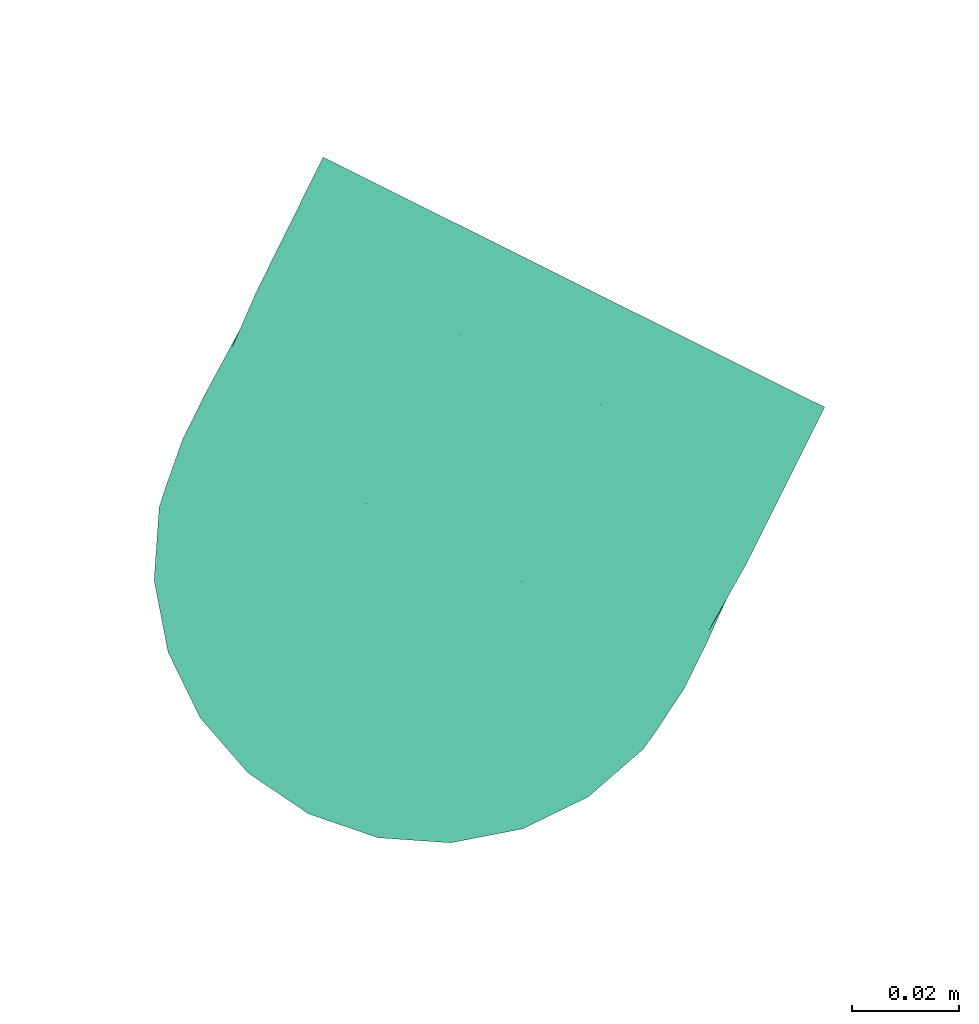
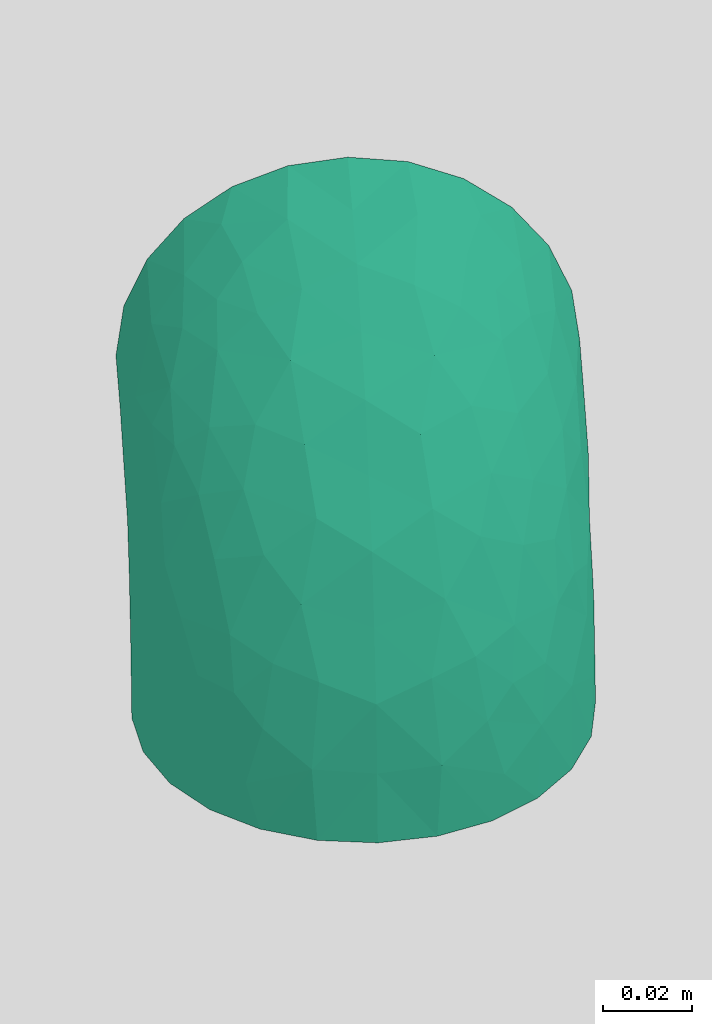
# One storey, part 3 of 4: 1 flow fitting.
"""IFC2X3 building model written with IfcOpenShell, lengths in metres."""

import ifcopenshell
import ifcopenshell.guid

model = None  # the IFC model being written
_history = None  # IfcOwnerHistory: only IFC2X3 demands one
_inside = {}  # id of a spatial element -> (the spatial element, [elements in it])
_under = {}  # id of a project, library or spatial element -> (it, [spatial elements below it])
_declared = {}  # id of a project -> (the project, [libraries it declares])
_typed = {}  # id of a type object -> (the type object, [elements of that type])
_made_of = {}  # id of a material, layer set ... -> (it, [elements and type objects made of it])


def new_model(schema):
    """Start an empty IFC model of exactly this schema.

    Asked for "IFC4X3", IfcOpenShell would pick the latest addendum, in which some entities
    have other attributes; the version numbers below select the first issue.
    IFC2X3 requires an IfcOwnerHistory on every rooted entity: one is made here for all.
    """
    global model, _history
    if schema == "IFC4X3":
        model = ifcopenshell.file(schema_version=(4, 3, 0, 0))
    else:
        model = ifcopenshell.file(schema=schema)
    _inside.clear()
    _under.clear()
    _declared.clear()
    _typed.clear()
    _made_of.clear()
    _history = None
    if model.schema == "IFC2X3":
        org = make("IfcOrganization", Name="unknown")
        user = make(
            "IfcPersonAndOrganization",
            ThePerson=make("IfcPerson", FamilyName="unknown"),
            TheOrganization=org,
        )
        app = make(
            "IfcApplication",
            ApplicationDeveloper=org,
            Version="unknown",
            ApplicationFullName="unknown",
            ApplicationIdentifier="unknown",
        )
        _history = make(
            "IfcOwnerHistory",
            OwningUser=user,
            OwningApplication=app,
            ChangeAction="ADDED",
            CreationDate=0,
        )
    return model


def make(cls, **values):
    """One entity of the class cls with the attributes given. An attribute that is None is left unset."""
    return model.create_entity(
        cls, **{name: value for name, value in values.items() if value is not None}
    )


def entity(cls, *values):
    """Any entity or typed value of the class cls, its attributes in the order of the schema. None: left unset."""
    e = model.create_entity(cls)
    for i, value in enumerate(values):
        if value is not None:
            e[i] = value
    return e


def rooted(cls, **values):
    """An entity with a GlobalId (a new one), such as an element, a storey or a relation."""
    return make(cls, GlobalId=ifcopenshell.guid.new(), OwnerHistory=_history, **values)


def si_unit(unit_type, name, prefix=None):
    """IfcSIUnit, for example si_unit("LENGTHUNIT", "METRE", prefix="MILLI")."""
    return make("IfcSIUnit", UnitType=unit_type, Prefix=prefix, Name=name)


def converted_unit(unit_type, name, factor, base, dimensions=None, offset=None):
    """IfcConversionBasedUnit, such as the inch: factor (a typed value) times the base unit."""
    return make(
        "IfcConversionBasedUnit"
        if offset is None
        else "IfcConversionBasedUnitWithOffset",
        ConversionOffset=offset,
        Dimensions=None
        if dimensions is None
        else entity("IfcDimensionalExponents", *dimensions),
        UnitType=unit_type,
        Name=name,
        ConversionFactor=make(
            "IfcMeasureWithUnit", ValueComponent=factor, UnitComponent=base
        ),
    )


def derived_unit(unit_type, elements):
    """IfcDerivedUnit: a product of units, each with its exponent."""
    return make(
        "IfcDerivedUnit",
        Elements=[
            make("IfcDerivedUnitElement", Unit=unit, Exponent=power)
            for unit, power in elements
        ],
        UnitType=unit_type,
    )


def assignment(units):
    """IfcUnitAssignment: the units of a project."""
    return None if units is None else make("IfcUnitAssignment", Units=units)


def point(xyz):
    """IfcCartesianPoint."""
    return None if xyz is None else make("IfcCartesianPoint", Coordinates=xyz)


def direction(xyz):
    """IfcDirection."""
    return None if xyz is None else make("IfcDirection", DirectionRatios=xyz)


def frame(location, z_axis=None, x_axis=None):
    """IfcAxis2Placement3D, a coordinate frame: its origin and axes. An axis left out is left unset."""
    return make(
        "IfcAxis2Placement3D",
        Location=point(location),
        Axis=direction(z_axis),
        RefDirection=direction(x_axis),
    )


def origin():
    """The frame at (0, 0, 0) with its axes left unset."""
    return frame((0.0, 0.0, 0.0))


def place(relative_to, where):
    """IfcLocalPlacement: puts the frame where relative to a parent placement (None: the world)."""
    return make(
        "IfcLocalPlacement", PlacementRelTo=relative_to, RelativePlacement=where
    )


def context(
    kind, dimensions, precision=None, world=None, true_north=None, identifier=None
):
    """IfcGeometricRepresentationContext, for example the 3D "Model" context."""
    return make(
        "IfcGeometricRepresentationContext",
        ContextIdentifier=identifier,
        ContextType=kind,
        CoordinateSpaceDimension=dimensions,
        Precision=precision,
        WorldCoordinateSystem=world,
        TrueNorth=true_north,
    )


def subcontext(parent, identifier, kind, view, scale=None):
    """IfcGeometricRepresentationSubContext, for example "Body" below "Model"."""
    return make(
        "IfcGeometricRepresentationSubContext",
        ContextIdentifier=identifier,
        ContextType=kind,
        ParentContext=parent,
        TargetScale=scale,
        TargetView=view,
    )


def project(units=None, contexts=None):
    """IfcProject with its units and contexts."""
    return rooted(
        "IfcProject",
        Name="project",
        RepresentationContexts=contexts,
        UnitsInContext=assignment(units),
    )


def spatial(cls, under=None, at=None, **own):
    """A site, building, storey or space (cls), placed at a placement, below another one or the project."""
    s = rooted(cls, ObjectPlacement=at, **own)
    if under is not None:
        _under.setdefault(under.id(), (under, []))[1].append(s)
    return s


def faces_of(points, faces, orient=None, outer=None):
    """IfcFace entities. A face is a list of loops; a loop is a list of indices into points, from 0.

    orient and outer hold one flag for each loop. By default every Orientation is true, the
    first loop of a face is its IfcFaceOuterBound and the others are IfcFaceBound.
    """
    made = []
    for i, loops in enumerate(faces):
        bounds = []
        for j, loop in enumerate(loops):
            is_outer = j == 0 if outer is None else outer[i][j]
            bounds.append(
                make(
                    "IfcFaceOuterBound" if is_outer else "IfcFaceBound",
                    Bound=make("IfcPolyLoop", Polygon=[points[k] for k in loop]),
                    Orientation=True if orient is None else orient[i][j],
                )
            )
        made.append(make("IfcFace", Bounds=bounds))
    return made


def faceted_brep(points, faces, orient=None, outer=None, voids=None):
    """IfcFacetedBrep: a solid bounded by flat faces; with voids (closed shells), ...WithVoids."""
    shared = [point(p) for p in points]
    hull = make("IfcClosedShell", CfsFaces=faces_of(shared, faces, orient, outer))
    if voids is None:
        return make("IfcFacetedBrep", Outer=hull)
    return make(
        "IfcFacetedBrepWithVoids",
        Outer=hull,
        Voids=[
            make(cls, CfsFaces=faces_of(shared, fs, o, b)) for cls, fs, o, b in voids
        ],
    )


def shape(context_of_items, identifier, shape_type, items):
    """IfcShapeRepresentation: the items that make up one representation, for example the "Body"."""
    return make(
        "IfcShapeRepresentation",
        ContextOfItems=context_of_items,
        RepresentationIdentifier=identifier,
        RepresentationType=shape_type,
        Items=items,
    )


def source(mapping_origin, context_of_items, identifier, shape_type, items):
    """IfcRepresentationMap: a shape defined once, which mapped items show again and again."""
    return make(
        "IfcRepresentationMap",
        MappingOrigin=mapping_origin,
        MappedRepresentation=shape(context_of_items, identifier, shape_type, items),
    )


def transform(
    local_origin,
    x_axis=None,
    y_axis=None,
    z_axis=None,
    scale=None,
    scale2=None,
    scale3=None,
    uniform=True,
):
    """IfcCartesianTransformationOperator3D, or its non-uniform kind. x_axis, y_axis, z_axis: its Axis1, 2, 3."""
    if uniform:
        return make(
            "IfcCartesianTransformationOperator3D",
            Axis1=direction(x_axis),
            Axis2=direction(y_axis),
            LocalOrigin=point(local_origin),
            Scale=scale,
            Axis3=direction(z_axis),
        )
    return make(
        "IfcCartesianTransformationOperator3DnonUniform",
        Axis1=direction(x_axis),
        Axis2=direction(y_axis),
        LocalOrigin=point(local_origin),
        Scale=scale,
        Axis3=direction(z_axis),
        Scale2=scale2,
        Scale3=scale3,
    )


def mapped(mapping_source, mapping_target):
    """IfcMappedItem: shows the shape of a source again, moved by a transform."""
    return make(
        "IfcMappedItem", MappingSource=mapping_source, MappingTarget=mapping_target
    )


def made_of(thing, what):
    """Note that an element or type object is made of a material, layer set ...; save() writes the relation."""
    if what is not None:
        _made_of.setdefault(what.id(), (what, []))[1].append(thing)
    return thing


def type_object(cls, material=None, **own):
    """A type object (cls), such as IfcWallType, which elements share."""
    return made_of(rooted(cls, **own), material)


def type_shapes(of_type, sources):
    """Give a type object the sources (RepresentationMaps) that its elements show as mapped items."""
    of_type.RepresentationMaps = sources


def element(
    cls,
    number,
    at=None,
    inside=None,
    cuts=None,
    type_object=None,
    material=None,
    context=None,
    identifier="Body",
    shape_type=None,
    held_by="IfcProductDefinitionShape",
    body=None,
    shapes=None,
    **own,
):
    """One element of the class cls, such as IfcWall. Its Tag is "e" and its number.

    at: its placement. inside: the storey or other place that contains it. cuts: it is an
    opening in that element (IfcRelVoidsElement). A single representation is given by context,
    identifier, shape_type and body (its items); several are given by shapes. held_by: the class
    of the entity that holds the representations. save() writes the other relations.
    """
    e = rooted(cls, Tag="e%d" % number, ObjectPlacement=at, **own)
    if body is not None:
        shapes = [shape(context, identifier, shape_type, body)]
    if shapes is not None:
        e.Representation = make(held_by, Representations=shapes)
    if inside is not None:
        _inside.setdefault(inside.id(), (inside, []))[1].append(e)
    if cuts is not None:
        rooted(
            "IfcRelVoidsElement", RelatingBuildingElement=cuts, RelatedOpeningElement=e
        )
    if type_object is not None:
        _typed.setdefault(type_object.id(), (type_object, []))[1].append(e)
    return made_of(e, material)


def aggregate(whole, parts):
    """IfcRelAggregates: a whole, such as a stair, and the parts it consists of."""
    return rooted("IfcRelAggregates", RelatingObject=whole, RelatedObjects=parts)


def save(model, path):
    """Write the relations noted so far, then the file.

    IfcRelAggregates (storeys below a building ...), IfcRelContainedInSpatialStructure (elements
    in a storey), IfcRelDefinesByType, IfcRelAssociatesMaterial and IfcRelDeclares: one each for
    every whole, place, type object, material and project.
    """
    for whole, parts in _under.values():
        aggregate(whole, parts)
    for where, things in _inside.values():
        rooted(
            "IfcRelContainedInSpatialStructure",
            RelatedElements=things,
            RelatingStructure=where,
        )
    for kind, things in _typed.values():
        rooted("IfcRelDefinesByType", RelatedObjects=things, RelatingType=kind)
    for what, things in _made_of.values():
        rooted("IfcRelAssociatesMaterial", RelatedObjects=things, RelatingMaterial=what)
    for by, libraries in _declared.values():
        rooted("IfcRelDeclares", RelatingContext=by, RelatedDefinitions=libraries)
    model.write(path)


model = new_model("IFC2X3")

# Units and contexts
model_context = context("Model", 3, precision=1e-05, world=origin(), true_north=direction((0.894925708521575, 0.446215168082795)))
context_of_model = context(None, 3, precision=1e-05, world=origin(), true_north=direction((0.894925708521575, 0.446215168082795)))
body_context = subcontext(model_context, "Body", "Model", "MODEL_VIEW")
ifc_project = project(units=[si_unit("LENGTHUNIT", "METRE"), si_unit("AREAUNIT", "SQUARE_METRE"), si_unit("VOLUMEUNIT", "CUBIC_METRE"), converted_unit("PLANEANGLEUNIT", "DEGREE", entity("IfcRatioMeasure", 0.0174532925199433), si_unit("PLANEANGLEUNIT", "RADIAN"), dimensions=[0, 0, 0, 0, 0, 0, 0]), si_unit("MASSUNIT", "GRAM", prefix="KILO"), si_unit("TIMEUNIT", "SECOND"), si_unit("FREQUENCYUNIT", "HERTZ"), si_unit("THERMODYNAMICTEMPERATUREUNIT", "DEGREE_CELSIUS"), derived_unit("THERMALTRANSMITTANCEUNIT", [(si_unit("MASSUNIT", "GRAM", prefix="KILO"), 1), (si_unit("THERMODYNAMICTEMPERATUREUNIT", "KELVIN"), -1), (si_unit("TIMEUNIT", "SECOND"), -3)]), derived_unit("VOLUMETRICFLOWRATEUNIT", [(si_unit("LENGTHUNIT", "METRE"), 3), (si_unit("TIMEUNIT", "SECOND"), -1)]), si_unit("ELECTRICCURRENTUNIT", "AMPERE"), si_unit("ELECTRICVOLTAGEUNIT", "VOLT"), si_unit("POWERUNIT", "WATT"), si_unit("FORCEUNIT", "NEWTON", prefix="KILO"), si_unit("ILLUMINANCEUNIT", "LUX"), si_unit("LUMINOUSFLUXUNIT", "LUMEN"), si_unit("LUMINOUSINTENSITYUNIT", "CANDELA"), si_unit("PRESSUREUNIT", "PASCAL")], contexts=[model_context, context_of_model])

# Site, building, storey
site_placement = place(None, frame((218.228324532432, 584.720189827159, 0.0), z_axis=(0.0, 0.0, 1.0), x_axis=(0.446215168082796, 0.894925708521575, 0.0)))
site = spatial("IfcSite", under=ifc_project, at=site_placement, Name="Default", CompositionType="ELEMENT")
building_placement = place(site_placement, origin())
building = spatial("IfcBuilding", under=site, at=building_placement, CompositionType="ELEMENT")
storey_placement = place(building_placement, frame((0.0, 0.0, 11.95)))
storey = spatial("IfcBuildingStorey", under=building, at=storey_placement, Name="3 - Piano Copertura", CompositionType="ELEMENT", Elevation=11.95)

# Flow fitting
pipe_fitting_type = type_object("IfcPipeFittingType", Name="Standard", PredefinedType="NOTDEFINED")
shared_shape = source(origin(), body_context, "Body", "Brep", [
    faceted_brep([(-0.0587374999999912, 0.0135588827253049, -0.0506024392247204), (-0.0587374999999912, 0.0, -0.0523875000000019), (-0.0587374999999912, -0.0135588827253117, -0.0506024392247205), (-0.0587374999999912, -0.0261937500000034, -0.0453689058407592), (-0.0587374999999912, -0.0370435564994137, -0.0370435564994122), (-0.0587374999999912, -0.0453689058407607, -0.026193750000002), (-0.0587374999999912, -0.0506024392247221, -0.0135588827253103), (-0.0587374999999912, -0.0523875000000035, 0.0), (-0.0587374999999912, -0.0506024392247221, 0.0135588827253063), (-0.0587374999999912, -0.0453689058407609, 0.026193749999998), (-0.0587374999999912, -0.0370435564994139, 0.0370435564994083), (-0.0587374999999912, -0.0261937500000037, 0.0453689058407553), (-0.0587374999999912, -0.013558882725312, 0.0506024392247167), (-0.0587374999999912, 0.0, 0.0523874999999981), (-0.0587374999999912, 0.0135588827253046, 0.0506024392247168), (-0.0587374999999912, 0.0198763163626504, 0.0479856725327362), (-0.0587374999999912, 0.0261937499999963, 0.0453689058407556), (-0.0587374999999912, 0.0370435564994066, 0.0370435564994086), (-0.0587374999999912, 0.0453689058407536, 0.0261937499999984), (-0.0587374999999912, 0.050602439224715, 0.0135588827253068), (-0.0587374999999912, 0.0523874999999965, 0.0), (-0.0587374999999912, 0.0506024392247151, -0.0135588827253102), (-0.0587374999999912, 0.0453689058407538, -0.0261937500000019), (-0.0587374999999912, 0.0370435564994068, -0.0370435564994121), (-0.0587374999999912, 0.0261937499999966, -0.0453689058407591), (-0.0506024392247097, 0.0587374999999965, -0.0135588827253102), (-0.0523874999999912, 0.0587374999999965, 0.0), (-0.0506024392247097, 0.0587374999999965, 0.0135588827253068), (-0.0453689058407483, 0.0587374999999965, 0.0261937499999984), (-0.0370435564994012, 0.0587374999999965, 0.0370435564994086), (-0.0261937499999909, 0.0587374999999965, 0.0453689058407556), (-0.0135588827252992, 0.0587374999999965, 0.0506024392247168), (0.0, 0.0587374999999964, 0.0523874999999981), (0.0135588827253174, 0.0587374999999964, 0.0506024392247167), (0.026193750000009, 0.0587374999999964, 0.0453689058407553), (0.0370435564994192, 0.0587374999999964, 0.0370435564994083), (0.0453689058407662, 0.0587374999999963, 0.026193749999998), (0.0506024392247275, 0.0587374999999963, 0.0135588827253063), (0.0523875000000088, 0.0587374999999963, 0.0), (0.0506024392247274, 0.0587374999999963, -0.0135588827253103), (0.0453689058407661, 0.0587374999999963, -0.026193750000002), (0.037043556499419, 0.0587374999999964, -0.0370435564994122), (0.0261937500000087, 0.0587374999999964, -0.0453689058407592), (0.0135588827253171, 0.0587374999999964, -0.0506024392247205), (0.0, 0.0587374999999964, -0.0523875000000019), (-0.0135588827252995, 0.0587374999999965, -0.0506024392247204), (-0.0198763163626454, 0.0587374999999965, -0.0479856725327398), (-0.0261937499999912, 0.0587374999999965, -0.0453689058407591), (-0.0370435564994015, 0.0587374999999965, -0.0370435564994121), (-0.0453689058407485, 0.0587374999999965, -0.0261937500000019), (-0.0477232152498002, -0.0428768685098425, 0.029234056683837), (-0.0404424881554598, -0.0487405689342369, 0.0146871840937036), (-0.0330754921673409, -0.0426115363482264, 0.02541456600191), (-0.0415677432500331, -0.049668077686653, 0.0), (0.0487405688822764, 0.0404424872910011, 0.0146871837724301), (0.031246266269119, 0.0148508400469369, 0.0321295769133), (0.0388833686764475, 0.0178115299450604, 0.0229045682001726), (0.0367285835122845, 0.0270467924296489, 0.0315108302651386), (-0.0199941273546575, -0.0437374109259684, 0.0127317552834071), (-0.0243979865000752, -0.0469486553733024, 0.0), (-0.00890892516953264, -0.039056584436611, 0.0), (0.0201213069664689, 0.0171012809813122, 0.042637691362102), (0.0230744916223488, 0.037920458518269, 0.0456608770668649), (0.00972866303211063, 0.0282591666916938, 0.0498177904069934), (-0.0491222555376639, 0.0144700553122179, 0.0506347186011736), (-0.0461599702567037, 0.0299660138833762, 0.0446893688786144), (-0.0379204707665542, -0.0230744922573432, 0.0456608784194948), (-0.0171012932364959, -0.0201213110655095, 0.0426376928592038), (-0.028259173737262, -0.00972866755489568, 0.0498177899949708), (-0.040589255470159, -0.0342234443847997, 0.0380789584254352), (-0.0270467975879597, -0.0367285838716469, 0.0315108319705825), (-0.0271152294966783, -0.0291112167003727, 0.03930979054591), (-0.0534446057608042, 0.0534446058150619, 0.0108471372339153), (-0.0495063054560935, 0.0496646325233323, 0.025443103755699), (-0.0173243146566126, 0.0419210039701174, 0.0504710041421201), (-0.00371546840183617, 0.0428654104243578, 0.0523668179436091), (-0.0450087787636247, -0.00973337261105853, 0.0511988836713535), (-0.0299568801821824, 0.046486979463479, 0.0446150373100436), (-0.0399230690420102, 0.0173966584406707, 0.0506667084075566), (-0.0424424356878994, 0.00369105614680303, 0.052370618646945), (-0.0263131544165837, 0.00911196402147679, 0.0523846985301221), (-0.00146414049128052, -0.0204367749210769, 0.0349996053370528), (0.00326567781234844, -0.0262911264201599, 0.0241349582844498), (0.0134674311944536, -0.014700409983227, 0.0280406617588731), (-0.051439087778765, 0.0405009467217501, 0.0348719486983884), (0.00973337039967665, 0.0450087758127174, 0.0511988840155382), (0.035173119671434, 0.00432985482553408, 0.0162746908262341), (0.0311645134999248, -0.00658013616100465, 0.0), (0.0390565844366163, 0.00890892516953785, 0.0), (0.00819521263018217, -0.00866873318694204, 0.0378156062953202), (-0.00965050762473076, -0.0101996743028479, 0.0455427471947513), (0.0428768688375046, 0.047723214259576, 0.0292340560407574), (-0.0246124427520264, 0.0342586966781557, 0.0496407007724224), (-0.0333214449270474, 0.0280057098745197, 0.048875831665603), (-0.0208506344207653, 0.0237046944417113, 0.0518992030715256), (0.0342234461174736, 0.0405892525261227, 0.0380789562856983), (0.0291112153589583, 0.0271152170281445, 0.0393097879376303), (0.0469486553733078, 0.0243979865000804, 0.0), (0.0496680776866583, 0.0415677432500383, 0.0), (0.043737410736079, 0.0199941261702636, 0.0127317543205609), (-0.00986713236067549, 0.0306998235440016, 0.0523327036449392), (-0.0542473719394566, 0.0542473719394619, 0.0), (-0.0405009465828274, 0.0514390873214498, 0.0348719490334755), (-0.0424073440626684, 0.0424073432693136, 0.0383928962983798), (0.0238466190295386, -0.0126740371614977, 0.0141509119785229), (-0.0141620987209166, -0.000990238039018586, 0.0499511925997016), (-0.00750695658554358, 0.0132290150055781, 0.0514652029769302), (0.00658013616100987, -0.0311645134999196, 0.0), (-0.00432985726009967, -0.0351731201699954, 0.0162746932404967), (0.042611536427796, 0.0330754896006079, 0.025414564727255), (-0.0347196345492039, 0.037964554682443, 0.0449042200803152), (0.000171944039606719, 0.0306895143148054, 0.0519816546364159), (-0.0178115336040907, -0.0388833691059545, 0.022904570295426), (0.0188723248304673, -0.0188723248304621, 0.0), (0.0120090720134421, -0.0250981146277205, 0.0121471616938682), (0.0200875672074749, 0.000757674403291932, 0.0348495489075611), (0.024463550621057, -0.0051316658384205, 0.0247890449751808), (0.000788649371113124, -0.000788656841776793, 0.0457929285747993), (0.00240405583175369, 0.0189002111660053, 0.0504158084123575), (0.0110535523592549, 0.0154294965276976, 0.0468715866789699), (-0.0148508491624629, -0.0312462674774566, 0.0321295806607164), (0.0125287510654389, 0.00468746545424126, 0.0424445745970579), (-0.0144700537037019, 0.0491222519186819, -0.0506347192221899), (-0.00432985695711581, -0.0351731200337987, -0.0162746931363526), (-0.0199941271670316, -0.0437374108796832, -0.0127317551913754), (-0.041921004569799, 0.0173243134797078, -0.0504710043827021), (-0.0428654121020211, 0.00371546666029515, -0.0523668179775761), (-0.0496646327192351, 0.0495063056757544, -0.0254431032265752), (-0.0424073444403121, 0.0424073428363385, -0.0383928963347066), (-0.0514390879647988, 0.0405009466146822, -0.0348719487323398), (0.020436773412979, 0.00146413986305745, -0.0349996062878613), (0.00866872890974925, -0.00819521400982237, -0.0378156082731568), (0.0101996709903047, 0.00965050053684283, -0.0455427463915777), (-0.0171012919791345, -0.020121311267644, -0.0426376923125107), (-0.0148508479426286, -0.0312462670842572, -0.0321295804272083), (-0.027115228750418, -0.0291112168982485, -0.0393097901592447), (-0.00911196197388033, 0.0263131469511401, -0.0523846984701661), (0.00972866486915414, 0.0282591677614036, -0.049817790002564), (0.000990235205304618, 0.0141620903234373, -0.0499511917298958), (-0.0132290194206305, 0.0075069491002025, -0.0514652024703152), (-0.0237046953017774, 0.0208506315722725, -0.0518992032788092), (-0.0404424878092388, -0.0487405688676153, -0.014687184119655), (-0.0477232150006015, -0.0428768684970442, -0.0292340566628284), (-0.0280057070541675, 0.0333214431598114, -0.0488758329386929), (-0.0299660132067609, 0.0461599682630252, -0.0446893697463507), (-0.0173966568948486, 0.0399230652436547, -0.0506667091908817), (-0.0534446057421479, 0.0534446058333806, -0.0108471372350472), (-0.0405892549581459, -0.034223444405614, -0.0380789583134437), (-0.0379204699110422, -0.0230744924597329, -0.0456608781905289), (-0.0282591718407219, -0.00972866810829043, -0.0498177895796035), (-0.0342586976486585, 0.0246124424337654, -0.0496407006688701), (-0.0464869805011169, 0.0299568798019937, -0.044615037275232), (-0.045008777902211, -0.00973337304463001, -0.0511988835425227), (-0.0178115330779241, -0.0388833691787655, -0.022904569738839), (-0.0270467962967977, -0.0367285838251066, -0.0315108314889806), (-0.0330754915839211, -0.0426115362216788, -0.0254145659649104), (0.0230744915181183, 0.0379204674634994, -0.0456608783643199), (0.0291112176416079, 0.0271152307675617, -0.0393097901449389), (0.0201213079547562, 0.0171012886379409, -0.0426376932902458), (-0.040500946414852, 0.0514390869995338, -0.0348719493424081), (-0.00369105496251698, 0.0424424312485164, -0.0523706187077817), (0.0428768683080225, 0.0477232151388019, -0.0292340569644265), (0.00973337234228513, 0.045008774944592, -0.0511988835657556), (0.0342234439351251, 0.0405892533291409, -0.0380789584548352), (0.0262911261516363, -0.00326567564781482, -0.0241349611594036), (0.0147004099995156, -0.0134674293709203, -0.0280406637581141), (0.0487405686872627, 0.0404424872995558, -0.0146871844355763), (0.0437374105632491, 0.0199941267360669, -0.0127317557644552), (0.0426115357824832, 0.0330754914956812, -0.0254145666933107), (0.0126740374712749, -0.0238466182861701, -0.0141509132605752), (-0.0306998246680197, 0.00986712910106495, -0.052332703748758), (0.0367285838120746, 0.0270467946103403, -0.0315108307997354), (0.0351731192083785, 0.00432985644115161, -0.0162746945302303), (-0.0379645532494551, 0.0347196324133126, -0.0449042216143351), (-0.0306895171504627, -0.000171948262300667, -0.0519816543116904), (0.0388833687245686, 0.0178115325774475, -0.0229045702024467), (0.025098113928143, -0.0120090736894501, -0.0121471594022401), (-0.000757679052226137, -0.0200875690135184, -0.0348495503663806), (0.0051316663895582, -0.0244635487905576, -0.0247890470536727), (0.000788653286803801, -0.000788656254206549, -0.0457929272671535), (-0.0189002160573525, -0.00240406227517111, -0.050415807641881), (-0.0154295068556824, -0.0110535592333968, -0.0468715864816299), (0.0312462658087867, 0.0148508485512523, -0.0321295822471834), (-0.00468747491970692, -0.0125287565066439, -0.0424445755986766)], [[[0, 1, 2, 3, 4, 5, 6, 7, 8, 9, 10, 11, 12, 13, 14, 15, 16, 17, 18, 19, 20, 21, 22, 23, 24]], [[25, 26, 27, 28, 29, 30, 31, 32, 33, 34, 35, 36, 37, 38, 39, 40, 41, 42, 43, 44, 45, 46, 47, 48, 49]], [[50, 51, 52]], [[53, 8, 7]], [[36, 54, 37]], [[55, 56, 57]], [[58, 59, 60]], [[61, 62, 63]], [[64, 65, 16]], [[66, 67, 68]], [[11, 69, 66]], [[70, 71, 69]], [[72, 73, 27]], [[31, 74, 75]], [[66, 68, 76]], [[13, 12, 76]], [[30, 77, 74]], [[16, 15, 14, 64]], [[78, 79, 80]], [[81, 82, 83]], [[51, 9, 8]], [[18, 17, 84]], [[30, 29, 77]], [[84, 73, 18]], [[72, 20, 19]], [[12, 11, 66]], [[16, 65, 17]], [[10, 9, 50]], [[33, 32, 85]], [[18, 73, 19]], [[62, 33, 85]], [[86, 87, 88]], [[81, 89, 90]], [[33, 62, 34]], [[35, 91, 36]], [[75, 32, 31]], [[92, 93, 94]], [[36, 91, 54]], [[62, 95, 34]], [[61, 55, 96]], [[54, 97, 98]], [[93, 65, 78]], [[97, 99, 88]], [[100, 75, 74]], [[101, 20, 72]], [[11, 10, 69]], [[101, 72, 26]], [[66, 71, 67]], [[102, 73, 103]], [[86, 88, 99]], [[28, 102, 29]], [[87, 86, 104]], [[28, 27, 73]], [[80, 68, 105]], [[106, 94, 80]], [[31, 30, 74]], [[14, 13, 79]], [[107, 108, 60]], [[35, 34, 95]], [[54, 109, 99]], [[8, 53, 51]], [[98, 37, 54]], [[76, 79, 13]], [[78, 80, 94]], [[93, 78, 94]], [[84, 65, 103]], [[102, 77, 29]], [[65, 93, 110]], [[74, 92, 100]], [[75, 111, 85]], [[57, 96, 55]], [[91, 95, 109]], [[50, 69, 10]], [[70, 52, 112]], [[51, 59, 58]], [[59, 51, 53]], [[38, 37, 98]], [[108, 112, 58]], [[58, 112, 52]], [[107, 113, 114]], [[61, 115, 55]], [[116, 115, 83]], [[99, 56, 86]], [[55, 115, 116]], [[108, 58, 60]], [[51, 58, 52]], [[54, 99, 97]], [[99, 109, 56]], [[79, 68, 80]], [[106, 105, 117]], [[63, 111, 118]], [[100, 111, 75]], [[119, 63, 118]], [[81, 83, 89]], [[81, 67, 120]], [[105, 90, 117]], [[121, 115, 61]], [[83, 104, 116]], [[83, 82, 114]], [[114, 113, 104]], [[83, 114, 104]], [[113, 87, 104]], [[108, 107, 114]], [[82, 120, 108]], [[83, 115, 89]], [[120, 82, 81]], [[114, 82, 108]], [[121, 89, 115]], [[90, 89, 117]], [[75, 85, 32]], [[62, 85, 63]], [[66, 76, 12]], [[79, 76, 68]], [[94, 100, 92]], [[103, 110, 77]], [[94, 106, 100]], [[106, 118, 111]], [[106, 111, 100]], [[85, 111, 63]], [[106, 117, 118]], [[117, 121, 119]], [[74, 77, 92]], [[110, 92, 77]], [[104, 86, 116]], [[55, 116, 86]], [[108, 120, 112]], [[70, 112, 120]], [[71, 70, 120]], [[69, 52, 70]], [[67, 71, 120]], [[69, 71, 66]], [[57, 56, 109]], [[55, 86, 56]], [[109, 95, 57]], [[96, 95, 62]], [[95, 96, 57]], [[61, 96, 62]], [[73, 102, 28]], [[77, 102, 103]], [[65, 84, 17]], [[73, 84, 103]], [[80, 105, 106]], [[90, 68, 67]], [[68, 90, 105]], [[81, 90, 67]], [[73, 72, 19]], [[26, 72, 27]], [[51, 50, 9]], [[69, 50, 52]], [[95, 91, 35]], [[54, 91, 109]], [[78, 65, 64]], [[14, 79, 64]], [[79, 78, 64]], [[119, 121, 61]], [[89, 121, 117]], [[63, 119, 61]], [[117, 119, 118]], [[65, 110, 103]], [[92, 110, 93]], [[46, 45, 122, 47]], [[123, 60, 124]], [[125, 0, 24]], [[1, 0, 126]], [[127, 128, 129]], [[59, 124, 60]], [[22, 129, 23]], [[130, 131, 132]], [[22, 21, 127]], [[133, 134, 135]], [[136, 137, 138]], [[139, 140, 136]], [[141, 5, 142]], [[143, 144, 145]], [[141, 59, 53]], [[146, 127, 21]], [[147, 3, 148]], [[133, 148, 149]], [[2, 148, 3]], [[150, 143, 140]], [[24, 23, 151]], [[142, 5, 4]], [[4, 3, 147]], [[2, 152, 148]], [[123, 107, 60]], [[134, 153, 154]], [[20, 101, 146]], [[141, 155, 124]], [[26, 25, 146]], [[156, 157, 158]], [[49, 159, 127]], [[122, 144, 47]], [[45, 44, 160]], [[48, 159, 49]], [[41, 40, 161]], [[145, 160, 136]], [[156, 137, 162]], [[151, 125, 24]], [[144, 48, 47]], [[0, 125, 126]], [[43, 162, 44]], [[163, 156, 42]], [[130, 164, 165]], [[166, 40, 39]], [[167, 97, 88]], [[137, 156, 158]], [[2, 1, 152]], [[168, 161, 166]], [[107, 123, 169]], [[38, 98, 39]], [[42, 41, 163]], [[170, 126, 125]], [[171, 157, 163]], [[43, 42, 156]], [[5, 141, 6]], [[39, 98, 166]], [[20, 146, 21]], [[87, 172, 88]], [[49, 127, 25]], [[53, 6, 141]], [[162, 160, 44]], [[145, 136, 140]], [[143, 145, 140]], [[159, 144, 128]], [[129, 151, 23]], [[144, 143, 173]], [[125, 150, 170]], [[126, 174, 152]], [[154, 135, 134]], [[142, 147, 155]], [[161, 163, 41]], [[171, 168, 175]], [[166, 97, 167]], [[97, 166, 98]], [[7, 6, 53]], [[172, 175, 167]], [[167, 175, 168]], [[87, 113, 176]], [[133, 177, 134]], [[178, 177, 165]], [[124, 153, 123]], [[134, 177, 178]], [[172, 167, 88]], [[166, 167, 168]], [[141, 124, 59]], [[124, 155, 153]], [[160, 137, 136]], [[139, 138, 179]], [[149, 174, 180]], [[170, 174, 126]], [[181, 149, 180]], [[130, 165, 131]], [[130, 158, 182]], [[138, 132, 179]], [[183, 177, 133]], [[165, 169, 178]], [[165, 164, 176]], [[176, 113, 169]], [[165, 176, 169]], [[113, 107, 169]], [[172, 87, 176]], [[164, 182, 172]], [[165, 177, 131]], [[182, 164, 130]], [[176, 164, 172]], [[183, 131, 177]], [[132, 131, 179]], [[126, 152, 1]], [[148, 152, 149]], [[156, 162, 43]], [[160, 162, 137]], [[140, 170, 150]], [[128, 173, 151]], [[140, 139, 170]], [[139, 180, 174]], [[139, 174, 170]], [[152, 174, 149]], [[139, 179, 180]], [[179, 183, 181]], [[125, 151, 150]], [[173, 150, 151]], [[169, 123, 178]], [[134, 178, 123]], [[172, 182, 175]], [[171, 175, 182]], [[157, 171, 182]], [[163, 168, 171]], [[158, 157, 182]], [[163, 157, 156]], [[154, 153, 155]], [[134, 123, 153]], [[155, 147, 154]], [[135, 147, 148]], [[147, 135, 154]], [[133, 135, 148]], [[127, 129, 22]], [[151, 129, 128]], [[144, 159, 48]], [[127, 159, 128]], [[136, 138, 139]], [[132, 137, 158]], [[137, 132, 138]], [[130, 132, 158]], [[26, 146, 101]], [[127, 146, 25]], [[166, 161, 40]], [[163, 161, 168]], [[147, 142, 4]], [[141, 142, 155]], [[145, 144, 122]], [[45, 160, 122]], [[160, 145, 122]], [[181, 183, 133]], [[131, 183, 179]], [[149, 181, 133]], [[179, 181, 180]], [[144, 173, 128]], [[150, 173, 143]]]),
])
type_shapes(pipe_fitting_type, [shared_shape])
flow_fitting_placement = place(storey_placement, frame((-5.09293502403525, 4.80892100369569, -0.092850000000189), z_axis=(0.0, -1.0, 0.0), x_axis=(-1.0, 0.0, 0.0)))
element("IfcFlowFitting", 1, at=flow_fitting_placement, inside=storey, type_object=pipe_fitting_type, Name="M_Gomito - Generico:Standard", ObjectType="Standard", context=body_context, shape_type="MappedRepresentation", body=[
    mapped(shared_shape, transform((0.0, 0.0, 0.0), scale=1.0)),
])

save(model, "model.ifc")
